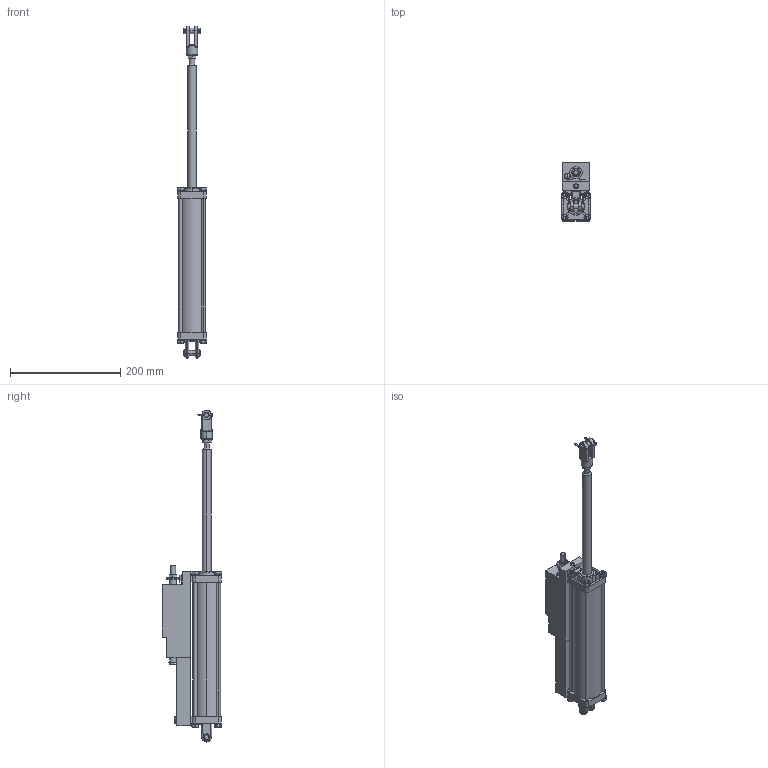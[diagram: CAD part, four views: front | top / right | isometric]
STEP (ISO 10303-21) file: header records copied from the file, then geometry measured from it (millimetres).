
FILE_DESCRIPTION (( 'STEP AP214' ), '1' );
FILE_NAME ('4605-8S_revC.STEP', '2019-04-11T17:15:08', ( '' ), ( '' ), 'SwSTEP 2.0', 'SolidWorks 2017', '' );
FILE_SCHEMA (( 'AUTOMOTIVE_DESIGN' ));
Length unit declared in the file: inch
Products named in the file (1): 4605-8S_revC
Bounding box: 54.11 x 107.27 x 602.72 mm (x, y, z)
Surface area: 174201.2 mm2 (no closed solid volume)
Topology: 0 solids, 74 shells, 863 faces, 2436 edges, 1608 vertices
Faces by surface type: plane 328, cylinder 283, cone 191, bspline 28, torus 21, sphere 12
Entity records: 41679 total; most frequent: CARTESIAN_POINT 8681, DIRECTION 4667, ORIENTED_EDGE 4096, EDGE_CURVE 2434, AXIS2_PLACEMENT_3D 1838, VERTEX_POINT 1608, CIRCLE 1002, LINE 991
